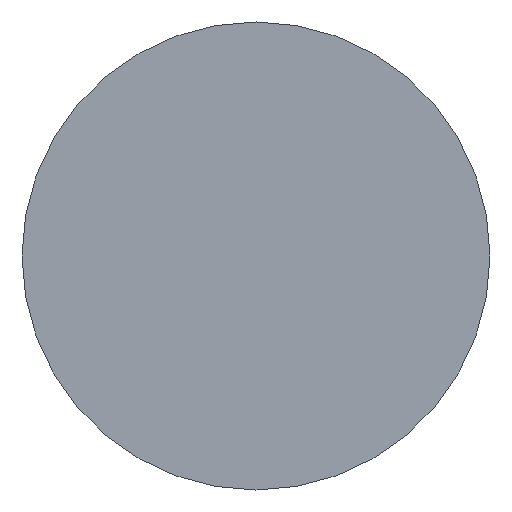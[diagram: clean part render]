
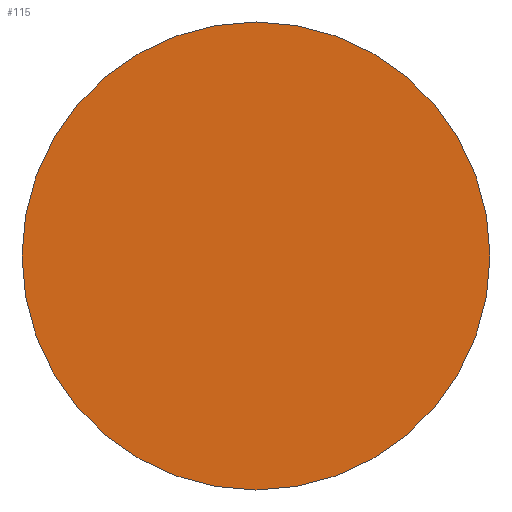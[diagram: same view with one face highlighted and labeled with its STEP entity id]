
A CAD part, left-side view. The second image highlights one B-rep face of the part: STEP entity #115.
In plain terms, the highlighted planar face has unit normal (-1, 0, 0).
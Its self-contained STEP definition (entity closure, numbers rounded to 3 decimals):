
#2 = FACE_OUTER_BOUND ( 'NONE', #20, .T. ) ;
#20 = EDGE_LOOP ( 'NONE', ( #21, #23 ) ) ;
#21 = ORIENTED_EDGE ( 'NONE', *, *, #121, .T. ) ;
#23 = ORIENTED_EDGE ( 'NONE', *, *, #117, .T. ) ;
#39 = CIRCLE ( 'NONE', #118, 5.5 ) ;
#42 = CIRCLE ( 'NONE', #122, 5.5 ) ;
#74 = DIRECTION ( 'NONE',  ( 0., 0., 1. ) ) ;
#76 = DIRECTION ( 'NONE',  ( -1., 0., 0. ) ) ;
#78 = CARTESIAN_POINT ( 'NONE',  ( -254.5, 0., 0. ) ) ;
#86 = DIRECTION ( 'NONE',  ( 0., 0., 1. ) ) ;
#87 = DIRECTION ( 'NONE',  ( -1., 0., 0. ) ) ;
#92 = VERTEX_POINT ( 'NONE', #108 ) ;
#94 = CARTESIAN_POINT ( 'NONE',  ( -254.5, 0., 0. ) ) ;
#95 = DIRECTION ( 'NONE',  ( 0., 0., 1. ) ) ;
#96 = DIRECTION ( 'NONE',  ( -1., 0., 0. ) ) ;
#98 = PLANE ( 'NONE',  #133 ) ;
#99 = CARTESIAN_POINT ( 'NONE',  ( -254.5, 0., 0. ) ) ;
#100 = VERTEX_POINT ( 'NONE', #112 ) ;
#108 = CARTESIAN_POINT ( 'NONE',  ( -254.5, 0., -5.5 ) ) ;
#112 = CARTESIAN_POINT ( 'NONE',  ( -254.5, 0., 5.5 ) ) ;
#115 = ADVANCED_FACE ( 'NONE', ( #2 ), #98, .T. ) ;
#117 = EDGE_CURVE ( 'NONE', #92, #100, #42, .T. ) ;
#118 = AXIS2_PLACEMENT_3D ( 'NONE', #78, #76, #74 ) ;
#121 = EDGE_CURVE ( 'NONE', #100, #92, #39, .T. ) ;
#122 = AXIS2_PLACEMENT_3D ( 'NONE', #94, #87, #86 ) ;
#133 = AXIS2_PLACEMENT_3D ( 'NONE', #99, #96, #95 ) ;
